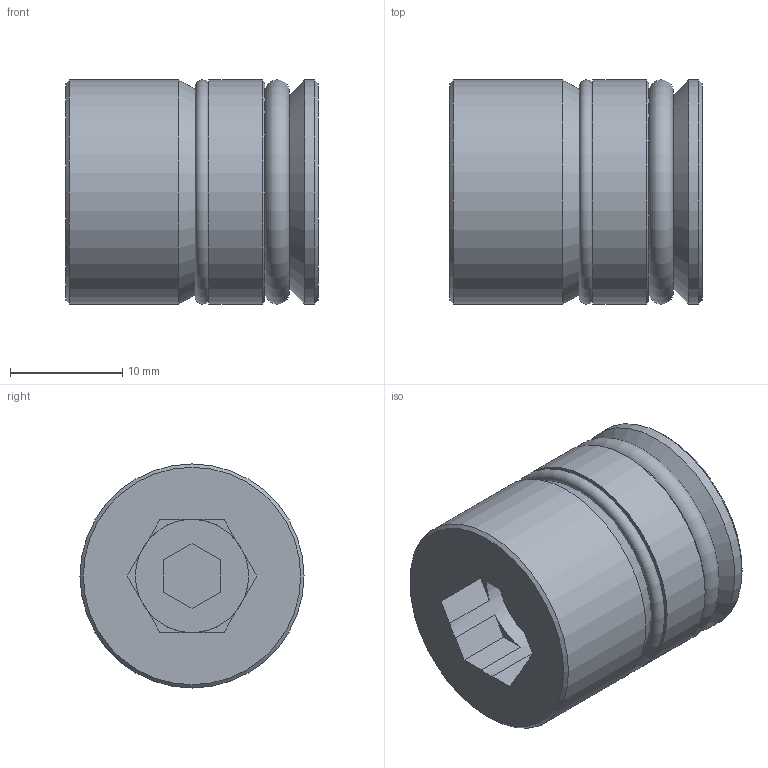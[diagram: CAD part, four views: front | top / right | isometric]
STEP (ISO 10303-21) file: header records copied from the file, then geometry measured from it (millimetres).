
FILE_DESCRIPTION( ( 'STEP AP214' ), '1' );
FILE_NAME( 'p:/temp/worker_257/temp/exporttempdir_4644_252_6zlSN/format_0/TRI-20.stp', '2021-02-05T19:29:54', ( 'License CC BY-ND 4.0' ), ( 'CADENAS' ), ' ', 'PARTsolutions', ' ' );
FILE_SCHEMA( ( 'AUTOMOTIVE_DESIGN { 1 0 10303 214 1 1 1 1 }' ) );
Length unit declared in the file: millimetre
Products named in the file (1): _TRI-20
Bounding box: 22.5 x 20 x 20 mm (x, y, z)
Volume: 6210.1 mm3; surface area: 2654.3 mm2
Topology: 1 solids, 1 shells, 41 faces, 98 edges, 63 vertices
Faces by surface type: plane 30, cone 5, cylinder 4, torus 2
Full cylindrical faces by diameter (mm): 10.1 x1, 20 x3
Entity records: 1470 total; most frequent: DIRECTION 196, CARTESIAN_POINT 192, ORIENTED_EDGE 172, EDGE_CURVE 86, AXIS2_PLACEMENT_3D 68, VERTEX_POINT 64, LINE 60, VECTOR 60
